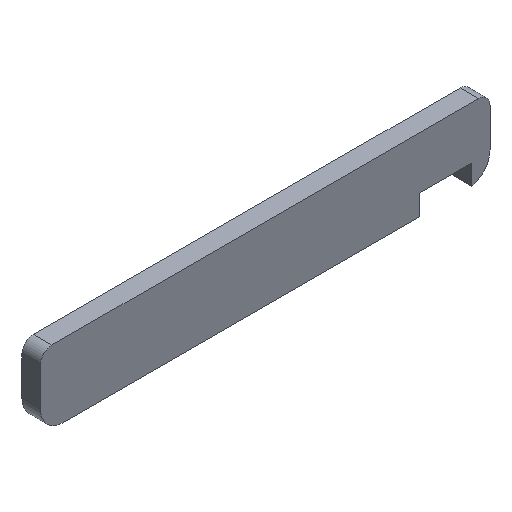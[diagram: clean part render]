
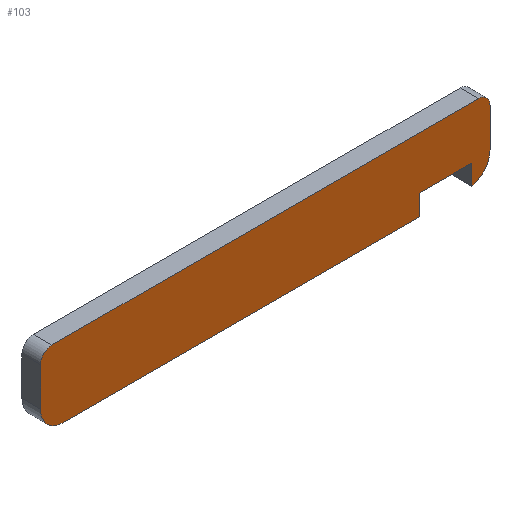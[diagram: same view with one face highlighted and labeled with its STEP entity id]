
A CAD part, isometric view. The second image highlights one B-rep face of the part: STEP entity #103.
In plain terms, the highlighted planar face has unit normal (0, -1, 0).
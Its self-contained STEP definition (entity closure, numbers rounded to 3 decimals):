
#103=ADVANCED_FACE('',(#125),#116,.T.);
#116=PLANE('',#340);
#125=FACE_OUTER_BOUND('',#138,.T.);
#138=EDGE_LOOP('',(#172,#173,#174,#175,#176,#177,#178,#179,#180,#181,#182));
#153=CIRCLE('',#336,2.5);
#154=CIRCLE('',#337,2.5);
#155=CIRCLE('',#338,5.05);
#156=CIRCLE('',#339,5.05);
#172=ORIENTED_EDGE('',*,*,#257,.F.);
#173=ORIENTED_EDGE('',*,*,#259,.T.);
#174=ORIENTED_EDGE('',*,*,#260,.T.);
#175=ORIENTED_EDGE('',*,*,#261,.T.);
#176=ORIENTED_EDGE('',*,*,#262,.T.);
#177=ORIENTED_EDGE('',*,*,#263,.T.);
#178=ORIENTED_EDGE('',*,*,#264,.F.);
#179=ORIENTED_EDGE('',*,*,#265,.F.);
#180=ORIENTED_EDGE('',*,*,#266,.F.);
#181=ORIENTED_EDGE('',*,*,#267,.F.);
#182=ORIENTED_EDGE('',*,*,#268,.T.);
#234=VERTEX_POINT('',#448);
#235=VERTEX_POINT('',#450);
#236=VERTEX_POINT('',#454);
#237=VERTEX_POINT('',#456);
#238=VERTEX_POINT('',#458);
#239=VERTEX_POINT('',#460);
#240=VERTEX_POINT('',#462);
#241=VERTEX_POINT('',#464);
#242=VERTEX_POINT('',#466);
#243=VERTEX_POINT('',#468);
#244=VERTEX_POINT('',#470);
#257=EDGE_CURVE('',#234,#235,#286,.T.);
#259=EDGE_CURVE('',#234,#236,#153,.T.);
#260=EDGE_CURVE('',#236,#237,#288,.T.);
#261=EDGE_CURVE('',#237,#238,#154,.T.);
#262=EDGE_CURVE('',#238,#239,#289,.T.);
#263=EDGE_CURVE('',#239,#240,#155,.T.);
#264=EDGE_CURVE('',#241,#240,#290,.T.);
#265=EDGE_CURVE('',#242,#241,#291,.T.);
#266=EDGE_CURVE('',#243,#242,#292,.T.);
#267=EDGE_CURVE('',#244,#243,#293,.T.);
#268=EDGE_CURVE('',#244,#235,#156,.T.);
#286=LINE('',#449,#311);
#288=LINE('',#455,#313);
#289=LINE('',#459,#314);
#290=LINE('',#463,#315);
#291=LINE('',#465,#316);
#292=LINE('',#467,#317);
#293=LINE('',#469,#318);
#311=VECTOR('',#373,1.);
#313=VECTOR('',#379,1.);
#314=VECTOR('',#382,1.);
#315=VECTOR('',#385,1.);
#316=VECTOR('',#386,1.);
#317=VECTOR('',#387,1.);
#318=VECTOR('',#388,1.);
#336=AXIS2_PLACEMENT_3D('',#453,#377,#378);
#337=AXIS2_PLACEMENT_3D('',#457,#380,#381);
#338=AXIS2_PLACEMENT_3D('',#461,#383,#384);
#339=AXIS2_PLACEMENT_3D('',#471,#389,#390);
#340=AXIS2_PLACEMENT_3D('',#472,#391,#392);
#373=DIRECTION('',(0.,0.,-1.));
#377=DIRECTION('',(0.,-1.,0.));
#378=DIRECTION('',(0.,0.,-1.));
#379=DIRECTION('',(-1.,0.,0.));
#380=DIRECTION('',(0.,-1.,0.));
#381=DIRECTION('',(0.,0.,-1.));
#382=DIRECTION('',(0.,0.,-1.));
#383=DIRECTION('',(0.,-1.,0.));
#384=DIRECTION('',(0.,0.,-1.));
#385=DIRECTION('',(-1.,0.,0.));
#386=DIRECTION('',(0.,0.,-1.));
#387=DIRECTION('',(-1.,0.,0.));
#388=DIRECTION('',(0.,0.,1.));
#389=DIRECTION('',(0.,-1.,0.));
#390=DIRECTION('',(0.,0.,-1.));
#391=DIRECTION('',(0.,-1.,0.));
#392=DIRECTION('',(0.,0.,-1.));
#448=CARTESIAN_POINT('',(199.171,-6.05,66.55));
#449=CARTESIAN_POINT('',(199.171,-6.05,69.));
#450=CARTESIAN_POINT('',(199.171,-6.05,58.));
#453=CARTESIAN_POINT('',(196.671,-6.05,66.55));
#454=CARTESIAN_POINT('',(196.671,-6.05,69.05));
#455=CARTESIAN_POINT('',(197.121,-6.05,69.05));
#456=CARTESIAN_POINT('',(102.329,-6.05,69.05));
#457=CARTESIAN_POINT('',(102.329,-6.05,66.55));
#458=CARTESIAN_POINT('',(99.829,-6.05,66.55));
#459=CARTESIAN_POINT('',(99.829,-6.05,69.));
#460=CARTESIAN_POINT('',(99.829,-6.05,58.));
#461=CARTESIAN_POINT('',(104.879,-6.05,58.));
#462=CARTESIAN_POINT('',(104.879,-6.05,52.95));
#463=CARTESIAN_POINT('',(197.121,-6.05,52.95));
#464=CARTESIAN_POINT('',(183.621,-6.05,52.95));
#465=CARTESIAN_POINT('',(183.621,-6.05,69.));
#466=CARTESIAN_POINT('',(183.621,-6.05,57.5));
#467=CARTESIAN_POINT('',(197.121,-6.05,57.5));
#468=CARTESIAN_POINT('',(195.121,-6.05,57.5));
#469=CARTESIAN_POINT('',(195.121,-6.05,69.));
#470=CARTESIAN_POINT('',(195.121,-6.05,53.05));
#471=CARTESIAN_POINT('',(194.121,-6.05,58.));
#472=CARTESIAN_POINT('',(197.121,-6.05,69.));
